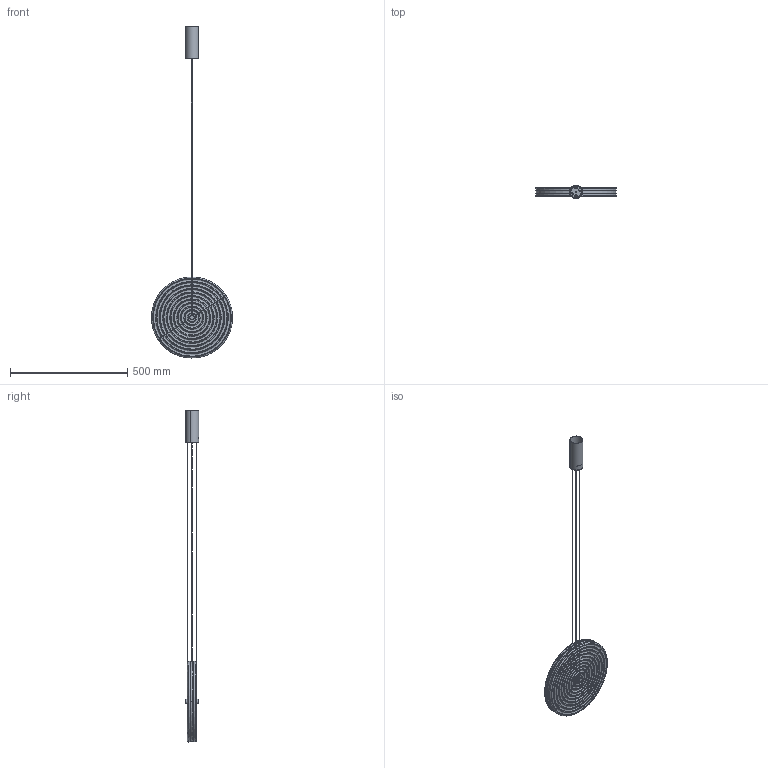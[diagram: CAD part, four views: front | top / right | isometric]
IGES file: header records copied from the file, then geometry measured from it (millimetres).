
Start section: SolidWorks IGES file using analytic representation for surfaces
Global section: file name: C:\Users\anna.bielnik\Desktop\AURA\ryflo aura.IGS; native system: SolidWorks 2025; preprocessor: SolidWorks 2025; author: anna.bielnik; date: 260420.085233; units: millimetre
Bounding box: 344.98 x 56.96 x 1415.75 mm (x, y, z)
Surface area: 775318.4 mm2 (no closed solid volume)
Topology: 0 solids, 0 shells, 363 faces, 6706 edges, 6702 vertices
Faces by surface type: bspline 263, revolution 100
